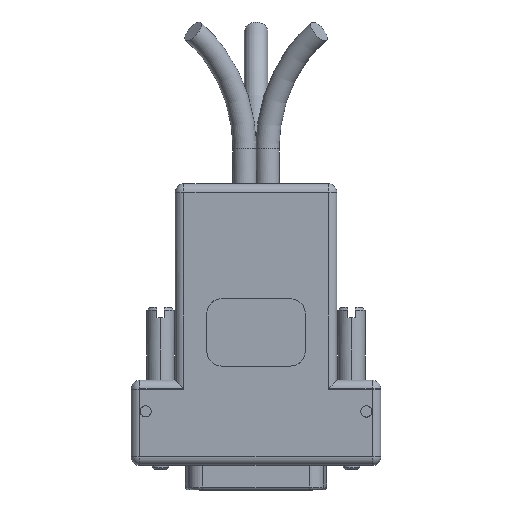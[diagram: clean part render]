
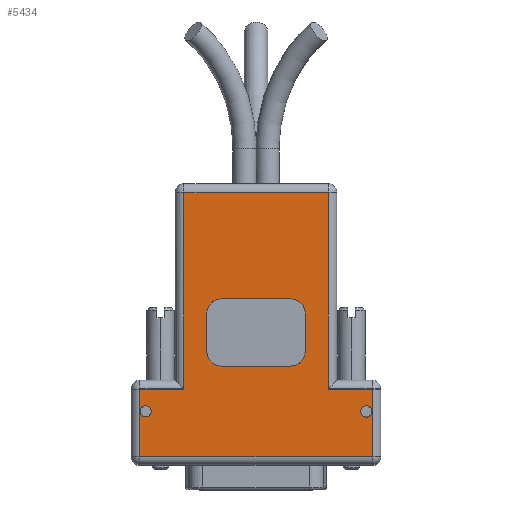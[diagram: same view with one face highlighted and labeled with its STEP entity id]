
A CAD part, top view. The second image highlights one B-rep face of the part: STEP entity #5434.
In plain terms, the highlighted planar face has unit normal (0, -0.028, 1).
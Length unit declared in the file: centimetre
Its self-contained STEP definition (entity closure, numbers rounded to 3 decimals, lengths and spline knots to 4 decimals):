
#135=ELLIPSE('',#5838,0.254,0.254);
#136=ELLIPSE('',#5839,0.254,0.254);
#137=ELLIPSE('',#5840,0.254,0.254);
#138=ELLIPSE('',#5841,0.254,0.254);
#228=VECTOR('',#6526,1.);
#232=VECTOR('',#6548,1.);
#236=VECTOR('',#6584,1.);
#241=VECTOR('',#6599,1.);
#242=VECTOR('',#6600,1.);
#243=VECTOR('',#6601,1.);
#244=VECTOR('',#6602,1.);
#245=VECTOR('',#6603,1.);
#246=VECTOR('',#6610,1.);
#247=VECTOR('',#6613,1.);
#248=VECTOR('',#6616,1.);
#249=VECTOR('',#6619,1.);
#711=LINE('',#8323,#228);
#715=LINE('',#8345,#232);
#719=LINE('',#8378,#236);
#724=LINE('',#8397,#241);
#725=LINE('',#8398,#242);
#726=LINE('',#8399,#243);
#727=LINE('',#8401,#244);
#728=LINE('',#8403,#245);
#729=LINE('',#8409,#246);
#730=LINE('',#8413,#247);
#731=LINE('',#8417,#248);
#732=LINE('',#8421,#249);
#1223=PLANE('',#5835);
#1402=CIRCLE('',#5768,0.0978);
#1404=CIRCLE('',#5771,0.0978);
#1447=CIRCLE('',#5836,0.0978);
#1448=CIRCLE('',#5837,0.0978);
#1719=VERTEX_POINT('',#8094);
#1720=VERTEX_POINT('',#8096);
#1723=VERTEX_POINT('',#8103);
#1724=VERTEX_POINT('',#8105);
#1767=VERTEX_POINT('',#8317);
#1770=VERTEX_POINT('',#8322);
#1776=VERTEX_POINT('',#8336);
#1779=VERTEX_POINT('',#8344);
#1786=VERTEX_POINT('',#8362);
#1792=VERTEX_POINT('',#8377);
#1801=VERTEX_POINT('',#8400);
#1802=VERTEX_POINT('',#8402);
#1803=VERTEX_POINT('',#8407);
#1804=VERTEX_POINT('',#8408);
#1805=VERTEX_POINT('',#8410);
#1806=VERTEX_POINT('',#8412);
#1807=VERTEX_POINT('',#8414);
#1808=VERTEX_POINT('',#8416);
#1809=VERTEX_POINT('',#8418);
#1810=VERTEX_POINT('',#8420);
#2301=EDGE_CURVE('',#1719,#1720,#1402,.T.);
#2305=EDGE_CURVE('',#1723,#1724,#1404,.T.);
#2354=EDGE_CURVE('',#1767,#1770,#711,.T.);
#2364=EDGE_CURVE('',#1776,#1779,#715,.T.);
#2379=EDGE_CURVE('',#1786,#1792,#719,.T.);
#2388=EDGE_CURVE('',#1779,#1786,#724,.T.);
#2389=EDGE_CURVE('',#1792,#1767,#725,.T.);
#2390=EDGE_CURVE('',#1770,#1801,#726,.F.);
#2391=EDGE_CURVE('',#1802,#1801,#727,.T.);
#2392=EDGE_CURVE('',#1802,#1776,#728,.F.);
#2393=EDGE_CURVE('',#1724,#1723,#1447,.F.);
#2394=EDGE_CURVE('',#1720,#1719,#1448,.F.);
#2395=EDGE_CURVE('',#1803,#1804,#135,.F.);
#2396=EDGE_CURVE('',#1805,#1803,#729,.T.);
#2397=EDGE_CURVE('',#1806,#1805,#136,.F.);
#2398=EDGE_CURVE('',#1807,#1806,#730,.T.);
#2399=EDGE_CURVE('',#1808,#1807,#137,.F.);
#2400=EDGE_CURVE('',#1809,#1808,#731,.T.);
#2401=EDGE_CURVE('',#1810,#1809,#138,.F.);
#2402=EDGE_CURVE('',#1804,#1810,#732,.T.);
#3275=ORIENTED_EDGE('',*,*,#2364,.T.);
#3276=ORIENTED_EDGE('',*,*,#2388,.T.);
#3277=ORIENTED_EDGE('',*,*,#2379,.T.);
#3278=ORIENTED_EDGE('',*,*,#2389,.T.);
#3279=ORIENTED_EDGE('',*,*,#2354,.T.);
#3280=ORIENTED_EDGE('',*,*,#2390,.T.);
#3281=ORIENTED_EDGE('',*,*,#2391,.F.);
#3282=ORIENTED_EDGE('',*,*,#2392,.T.);
#3283=ORIENTED_EDGE('',*,*,#2393,.F.);
#3284=ORIENTED_EDGE('',*,*,#2305,.F.);
#3285=ORIENTED_EDGE('',*,*,#2394,.F.);
#3286=ORIENTED_EDGE('',*,*,#2301,.F.);
#3287=ORIENTED_EDGE('',*,*,#2395,.F.);
#3288=ORIENTED_EDGE('',*,*,#2396,.F.);
#3289=ORIENTED_EDGE('',*,*,#2397,.F.);
#3290=ORIENTED_EDGE('',*,*,#2398,.F.);
#3291=ORIENTED_EDGE('',*,*,#2399,.F.);
#3292=ORIENTED_EDGE('',*,*,#2400,.F.);
#3293=ORIENTED_EDGE('',*,*,#2401,.F.);
#3294=ORIENTED_EDGE('',*,*,#2402,.F.);
#4719=EDGE_LOOP('',(#3275,#3276,#3277,#3278,#3279,#3280,#3281,#3282));
#4720=EDGE_LOOP('',(#3283,#3284));
#4721=EDGE_LOOP('',(#3285,#3286));
#4722=EDGE_LOOP('',(#3287,#3288,#3289,#3290,#3291,#3292,#3293,#3294));
#5088=FACE_BOUND('',#4719,.T.);
#5089=FACE_BOUND('',#4720,.T.);
#5090=FACE_BOUND('',#4721,.T.);
#5091=FACE_BOUND('',#4722,.T.);
#5434=ADVANCED_FACE('',(#5088,#5089,#5090,#5091),#1223,.F.);
#5768=AXIS2_PLACEMENT_3D('',#8095,#6430,#6431);
#5771=AXIS2_PLACEMENT_3D('',#8104,#6438,#6439);
#5835=AXIS2_PLACEMENT_3D('',#8396,#6598,$);
#5836=AXIS2_PLACEMENT_3D('',#8404,#6604,#6605);
#5837=AXIS2_PLACEMENT_3D('',#8405,#6606,#6607);
#5838=AXIS2_PLACEMENT_3D('',#8406,#6608,#6609);
#5839=AXIS2_PLACEMENT_3D('',#8411,#6611,#6612);
#5840=AXIS2_PLACEMENT_3D('',#8415,#6614,#6615);
#5841=AXIS2_PLACEMENT_3D('',#8419,#6617,#6618);
#6430=DIRECTION('',(0.,-0.028,1.));
#6431=DIRECTION('',(0.,-0.098,-0.003));
#6438=DIRECTION('',(0.,-0.028,1.));
#6439=DIRECTION('',(0.,-0.098,-0.003));
#6526=DIRECTION('',(-1.,0.,0.));
#6548=DIRECTION('',(-1.,0.,0.));
#6584=DIRECTION('',(-1.,0.,0.));
#6598=DIRECTION('',(0.,0.028,-1.));
#6599=DIRECTION('',(0.,1.,0.028));
#6600=DIRECTION('',(0.,-1.,-0.028));
#6601=DIRECTION('',(0.,1.,0.028));
#6602=DIRECTION('',(-1.,0.,0.));
#6603=DIRECTION('',(0.,-1.,-0.028));
#6604=DIRECTION('',(0.,0.028,-1.));
#6605=DIRECTION('',(0.,-0.098,-0.003));
#6606=DIRECTION('',(0.,0.028,-1.));
#6607=DIRECTION('',(0.,-0.098,-0.003));
#6608=DIRECTION('',(0.,0.028,-1.));
#6609=DIRECTION('',(0.,-0.254,-0.007));
#6610=DIRECTION('',(0.,1.,0.028));
#6611=DIRECTION('',(0.,0.028,-1.));
#6612=DIRECTION('',(0.,-0.254,-0.007));
#6613=DIRECTION('',(1.,0.,0.));
#6614=DIRECTION('',(0.,0.028,-1.));
#6615=DIRECTION('',(0.,-0.254,-0.007));
#6616=DIRECTION('',(0.,-1.,-0.028));
#6617=DIRECTION('',(0.,0.028,-1.));
#6618=DIRECTION('',(0.,-0.254,-0.007));
#6619=DIRECTION('',(-1.,0.,0.));
#8094=CARTESIAN_POINT('',(-1.9247,0.8509,0.824));
#8095=CARTESIAN_POINT('',(-1.9247,0.7531,0.8212));
#8096=CARTESIAN_POINT('',(-1.9247,0.6553,0.8184));
#8103=CARTESIAN_POINT('',(1.9234,0.8476,0.8239));
#8104=CARTESIAN_POINT('',(1.9234,0.7499,0.8211));
#8105=CARTESIAN_POINT('',(1.9234,0.6521,0.8183));
#8317=CARTESIAN_POINT('',(-1.2567,1.1387,0.8321));
#8322=CARTESIAN_POINT('',(-2.0263,1.1387,0.8321));
#8323=CARTESIAN_POINT('',(-2.1787,1.1387,0.8321));
#8336=CARTESIAN_POINT('',(2.025,1.1387,0.8321));
#8344=CARTESIAN_POINT('',(1.2567,1.1387,0.8321));
#8345=CARTESIAN_POINT('',(1.4091,1.1387,0.8321));
#8362=CARTESIAN_POINT('',(1.2567,4.5677,0.929));
#8377=CARTESIAN_POINT('',(-1.2567,4.5677,0.929));
#8378=CARTESIAN_POINT('',(2.1774,4.5677,0.929));
#8396=CARTESIAN_POINT('',(2.1774,4.5677,0.929));
#8397=CARTESIAN_POINT('',(1.2567,4.5677,0.929));
#8398=CARTESIAN_POINT('',(-1.2567,4.5677,0.929));
#8399=CARTESIAN_POINT('',(-2.0263,4.5677,0.929));
#8400=CARTESIAN_POINT('',(-2.0263,-0.0424,0.7987));
#8401=CARTESIAN_POINT('',(2.1774,-0.0424,0.7987));
#8402=CARTESIAN_POINT('',(2.025,-0.0424,0.7987));
#8403=CARTESIAN_POINT('',(2.025,4.5677,0.929));
#8404=CARTESIAN_POINT('',(1.9234,0.7499,0.8211));
#8405=CARTESIAN_POINT('',(-1.9247,0.7531,0.8212));
#8406=CARTESIAN_POINT('',(0.6026,2.4621,0.8695));
#8407=CARTESIAN_POINT('',(0.8566,2.4621,0.8695));
#8408=CARTESIAN_POINT('',(0.6026,2.716,0.8767));
#8409=CARTESIAN_POINT('',(0.8566,3.1823,0.8899));
#8410=CARTESIAN_POINT('',(0.8566,1.7969,0.8507));
#8411=CARTESIAN_POINT('',(0.6026,1.7969,0.8507));
#8412=CARTESIAN_POINT('',(0.6026,1.543,0.8435));
#8413=CARTESIAN_POINT('',(0.7868,1.543,0.8435));
#8414=CARTESIAN_POINT('',(-0.6039,1.543,0.8435));
#8415=CARTESIAN_POINT('',(-0.6039,1.7969,0.8507));
#8416=CARTESIAN_POINT('',(-0.8579,1.7969,0.8507));
#8417=CARTESIAN_POINT('',(-0.8579,3.1823,0.8899));
#8418=CARTESIAN_POINT('',(-0.8579,2.4621,0.8695));
#8419=CARTESIAN_POINT('',(-0.6039,2.4621,0.8695));
#8420=CARTESIAN_POINT('',(-0.6039,2.716,0.8767));
#8421=CARTESIAN_POINT('',(0.7868,2.716,0.8767));
